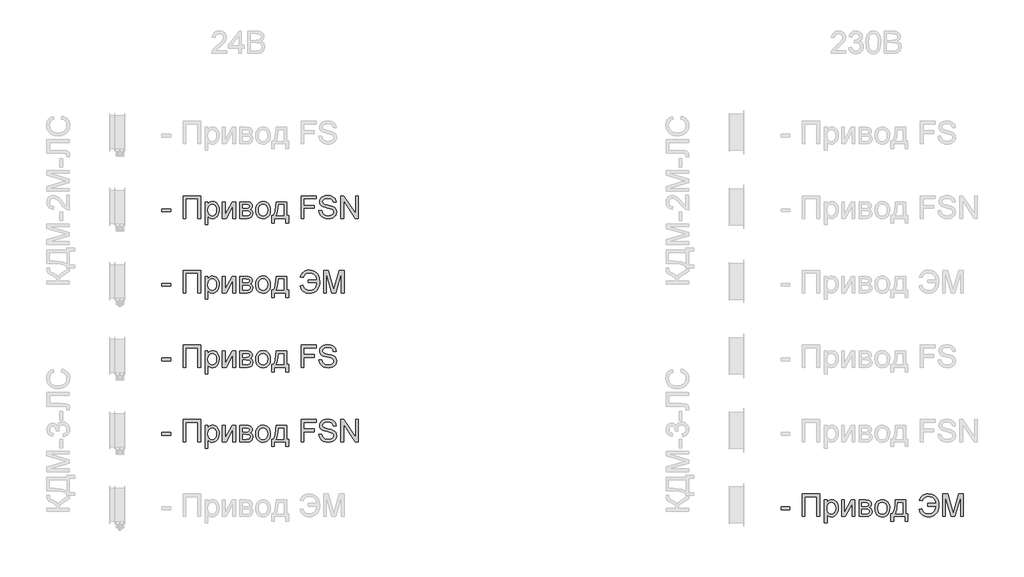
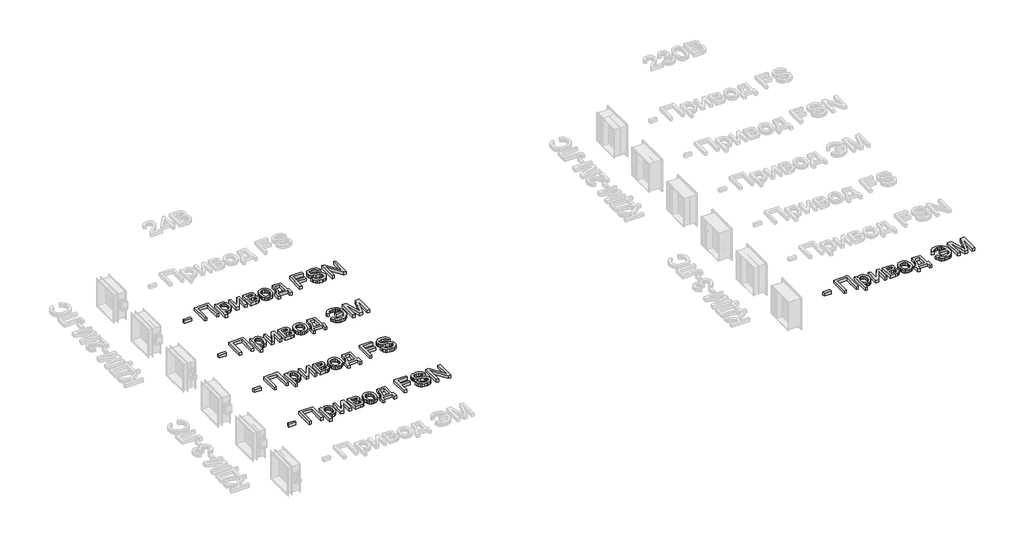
# One storey, part 3 of 23: 5 proxies.
"""IFC4 building model written with IfcOpenShell, lengths in millimetres."""

from ifc_helpers import new_model, si_unit, origin, origin_with_axes, place, context, project, spatial, polyline, outline, extrude, element, save

model = new_model("IFC4")

# Units and contexts
model_context = context("Model", 3, world=origin())
ifc_project = project(units=[si_unit("LENGTHUNIT", "METRE", prefix="MILLI")], contexts=[model_context])

# Site, building, storey
site = spatial("IfcSite", under=ifc_project)
building = spatial("IfcBuilding", under=site)
storey = spatial("IfcBuildingStorey", under=building, Name="Этаж 01", Elevation=0.0)

# Proxies
placement = place(None, origin())
element("IfcBuildingElementProxy", 1, Name="300 мм Arial", ObjectType="300 мм Arial", at=placement, inside=storey, context=model_context, shape_type="SweptSolid", body=[
    extrude(outline(polyline([(9504.7738082, -16034.3206311), (9504.7738082, -15996.6495148), (9622.4960467, -15996.6495148), (9622.4960467, -16034.3206311), (9504.7738082, -16034.3206311)])), origin_with_axes(), (0.0, 0.0, 1.0), 50.0),
    extrude(outline(polyline([(9787.3071805, -15822.4206019), (10022.7516574, -15822.4206019), (10022.7516574, -16123.7895324), (9985.0805411, -16123.7895324), (9985.0805411, -15860.0917182), (9824.9782968, -15860.0917182), (9824.9782968, -16123.7895324), (9787.3071805, -16123.7895324), (9787.3071805, -15822.4206019)])), origin_with_axes(), (0.0, 0.0, 1.0), 50.0),
    extrude(outline(polyline([(10083.9672214, -16208.5495441), (10083.9672214, -15902.4717241), (10121.6383378, -15902.4717241), (10121.6383378, -15939.4070764), (10133.9255964, -15921.1877206), (10147.684383, -15908.173895), (10163.724038, -15900.3655996), (10182.8539017, -15897.7628345), (10208.3297299, -15901.4048663), (10230.6049847, -15912.3309615), (10248.7415671, -15929.8789327), (10261.8013779, -15953.3865922), (10269.6924467, -15981.1432887), (10272.322803, -16011.438371), (10269.3521559, -16043.6556368), (10260.4402145, -16072.469994), (10245.8720875, -16096.4191119), (10225.9328834, -16114.0406595), (10202.7103324, -16124.8839813), (10178.292165, -16128.4984219), (10160.9741201, -16126.0795978), (10145.5138792, -16118.8231254), (10132.2793245, -16107.869439), (10121.6383378, -16094.3589728), (10121.6383378, -16208.5495441), (10083.9672214, -16208.5495441)]), holes=[polyline([(10121.6383378, -16014.8964618), (10125.7126308, -16048.668029), (10137.9355101, -16072.286053), (10155.970925, -16086.1919925), (10177.4828246, -16090.8273056), (10199.3442122, -16086.0264456), (10217.8394795, -16071.6238655), (10230.4486349, -16047.1413187), (10234.6516867, -16012.1005586), (10230.5498024, -15978.5129325), (10218.2441497, -15954.5638146), (10200.236326, -15940.2164168), (10179.027929, -15935.4339508), (10157.7367585, -15940.5199194), (10139.0391561, -15955.7778252), (10125.9885423, -15980.7294215), (10121.6383378, -16014.8964618)])]), origin_with_axes(), (0.0, 0.0, 1.0), 50.0),
    extrude(outline(polyline([(10314.7028088, -15902.4717241), (10352.3739251, -15902.4717241), (10352.3739251, -16071.2559835), (10444.9330351, -15902.4717241), (10493.6406113, -15902.4717241), (10493.6406113, -16123.7895324), (10455.969495, -16123.7895324), (10455.969495, -15956.0353426), (10363.9989962, -16123.7895324), (10314.7028088, -16123.7895324), (10314.7028088, -15902.4717241)])), origin_with_axes(), (0.0, 0.0, 1.0), 50.0),
    extrude(outline(polyline([(10550.1472857, -15902.4717241), (10633.1414638, -15902.4717241), (10659.8221055, -15903.7317199), (10678.6484666, -15907.5117074), (10692.4992238, -15914.6486181), (10704.2530535, -15925.9793836), (10712.2820781, -15940.7406486), (10714.9584196, -15958.1690581), (10713.3397388, -15972.2129533), (10708.4836965, -15984.325468), (10700.3718985, -15994.5617845), (10688.9859507, -16002.9770852), (10702.9286783, -16010.8037746), (10714.296232, -16023.3945359), (10721.856207, -16039.7560876), (10724.3761986, -16058.8951484), (10717.993446, -16087.6083381), (10702.8183137, -16107.8234538), (10678.7956194, -16119.7980127), (10645.8701809, -16123.7895324), (10550.1472857, -16123.7895324), (10550.1472857, -15902.4717241)]), holes=[polyline([(10587.818402, -16086.1184161), (10634.0243806, -16086.1184161), (10659.2059032, -16084.4169618), (10675.0064349, -16079.3125992), (10683.4861149, -16070.0327758), (10686.7050823, -16055.8049397), (10685.0955986, -16046.3779635), (10680.2671474, -16037.6683573), (10672.8543252, -16030.8533433), (10663.4917284, -16027.110144), (10630.3455607, -16024.9028521), (10587.818402, -16024.9028521), (10587.818402, -16086.1184161)]), polyline([(10587.818402, -15987.2317358), (10625.04806, -15987.2317358), (10655.7662065, -15985.3187494), (10670.7022156, -15977.6668039), (10675.6410313, -15971.3392336), (10677.2873033, -15963.8344409), (10674.3994296, -15952.5956459), (10665.7358086, -15945.3667647), (10650.0824297, -15941.4488215), (10626.2252823, -15940.1428404), (10587.818402, -15940.1428404), (10587.818402, -15987.2317358)])]), origin_with_axes(), (0.0, 0.0, 1.0), 50.0),
    extrude(outline(polyline([(10762.047315, -16013.1306282), (10764.0844615, -15984.4680223), (10770.1959011, -15959.7693448), (10780.3816339, -15939.0345959), (10794.6416597, -15922.2637754), (10808.9982546, -15911.5446138), (10824.8447715, -15903.8880698), (10842.1812106, -15899.2941433), (10861.0075717, -15897.7628345), (10881.7906051, -15899.6275364), (10900.5824773, -15905.221642), (10917.3831882, -15914.5451513), (10932.1927377, -15927.5980643), (10944.2799605, -15943.9389227), (10952.9136911, -15963.126268), (10958.0939294, -15985.1601003), (10959.8206756, -16010.0404195), (10956.767255, -16048.0978119), (10947.6069933, -16077.068519), (10932.606605, -16098.7643596), (10912.0328044, -16114.9971527), (10887.5962429, -16125.1231046), (10861.0075717, -16128.4984219), (10839.9210355, -16126.6406178), (10820.9544194, -16121.0672056), (10804.1077233, -16111.7781852), (10789.3809472, -16098.7735567), (10777.4224831, -16082.2740492), (10768.880723, -16062.500392), (10763.755667, -16039.452585), (10762.047315, -16013.1306282)]), holes=[polyline([(10799.7184313, -16013.0570518), (10804.0778329, -16047.1505157), (10817.1560378, -16071.4399245), (10836.8377246, -16085.9804603), (10861.0075717, -16090.8273056), (10885.0670541, -16085.9528692), (10904.7119527, -16071.3295599), (10917.7901576, -16046.7182544), (10922.1495593, -16011.8798294), (10917.7625665, -15978.7796469), (10904.6015881, -15954.821332), (10884.9290984, -15940.2807961), (10861.0075717, -15935.4339508), (10836.8377246, -15940.262402), (10817.1560378, -15954.7477556), (10804.0778329, -15978.981982), (10799.7184313, -16013.0570518)])]), origin_with_axes(), (0.0, 0.0, 1.0), 50.0),
    extrude(outline(polyline([(11035.1629082, -15902.4717241), (11176.4295943, -15902.4717241), (11176.4295943, -16086.1184161), (11204.6829316, -16086.1184161), (11204.6829316, -16185.0050964), (11167.0118152, -16185.0050964), (11167.0118152, -16123.7895324), (11011.6184605, -16123.7895324), (11011.6184605, -16185.0050964), (10973.9473442, -16185.0050964), (10973.9473442, -16086.1184161), (10997.4917919, -16086.1184161), (11014.6075017, -16055.1887373), (11026.5912577, -16014.2710624), (11033.4430598, -15963.3653913), (11035.1629082, -15902.4717241)]), holes=[polyline([(11068.1251349, -15940.1428404), (11065.0349262, -15986.2660455), (11059.2959671, -16025.9697099), (11050.9082576, -16059.2538334), (11039.8717977, -16086.1184161), (11138.758478, -16086.1184161), (11138.758478, -15940.1428404), (11068.1251349, -15940.1428404)])]), origin_with_axes(), (0.0, 0.0, 1.0), 50.0),
    extrude(outline(polyline([(11369.4940654, -16123.7895324), (11369.4940654, -15822.4206019), (11571.9763155, -15822.4206019), (11571.9763155, -15860.0917182), (11407.1651817, -15860.0917182), (11407.1651817, -15949.5606195), (11548.4318678, -15949.5606195), (11548.4318678, -15987.2317358), (11407.1651817, -15987.2317358), (11407.1651817, -16123.7895324), (11369.4940654, -16123.7895324)])), origin_with_axes(), (0.0, 0.0, 1.0), 50.0),
    extrude(outline(polyline([(11609.6474318, -16020.1939625), (11647.3185481, -16020.1939625), (11651.6411616, -16041.0988569), (11659.458654, -16057.901867), (11671.6539421, -16071.2375894), (11689.1099428, -16081.7406203), (11710.4470985, -16088.5556343), (11734.2858518, -16090.8273056), (11755.2735196, -16089.1074573), (11773.6492253, -16083.9479123), (11788.539249, -16075.780932), (11799.0698712, -16065.0387777), (11805.3330621, -16052.7055339), (11807.4207924, -16039.7652847), (11805.857294, -16027.1561293), (11801.1667985, -16016.2576252), (11791.6386549, -16006.9594078), (11775.5622117, -15999.1511124), (11720.7110062, -15984.7669264), (11684.7045559, -15975.2479798), (11661.665946, -15966.1888856), (11642.9131613, -15953.5153509), (11629.6234242, -15938.1562776), (11621.7047642, -15920.4427595), (11619.0652109, -15900.7058905), (11622.3301636, -15878.6421678), (11632.1250217, -15858.0683673), (11648.1922679, -15840.6307607), (11670.2743846, -15827.97562), (11696.7802824, -15820.2776893), (11726.1188715, -15817.7117124), (11757.9038759, -15820.3972509), (11785.7157547, -15828.4538666), (11808.5612266, -15841.7160126), (11825.4470102, -15860.0181418), (11836.1339822, -15882.2198202), (11840.3830192, -15907.1806136), (11802.7119029, -15907.1806136), (11795.7957214, -15884.7030237), (11781.3747472, -15868.4794277), (11758.841975, -15858.6569784), (11727.5903995, -15855.3828287), (11695.60306, -15858.6201902), (11673.658899, -15868.3322749), (11660.9669702, -15882.6244904), (11656.7363272, -15899.6022445), (11659.7345655, -15914.078401), (11668.7292803, -15925.7218662), (11689.9928596, -15936.1329266), (11730.2391499, -15946.7647163), (11771.7730271, -15956.8630771), (11796.8993674, -15965.6738508), (11818.3744789, -15979.340667), (11833.3564731, -15996.2080564), (11842.1580498, -16016.0920783), (11845.0919088, -16038.8087915), (11841.7165914, -16062.0313424), (11831.5906395, -16083.8743359), (11815.1279202, -16102.6731058), (11792.7423008, -16116.7629863), (11765.8225358, -16125.564563), (11735.7573798, -16128.4984219), (11698.8496186, -16125.3346367), (11668.4717629, -16115.8432813), (11644.2743246, -16099.9875673), (11625.907816, -16077.7307066), (11614.1171981, -16050.6178035), (11609.6474318, -16020.1939625)])), origin_with_axes(), (0.0, 0.0, 1.0), 50.0),
    extrude(outline(polyline([(11901.5985832, -16123.7895324), (11901.5985832, -15822.4206019), (11941.9184499, -15822.4206019), (12099.3719438, -16061.1760168), (12099.3719438, -15822.4206019), (12137.0430601, -15822.4206019), (12137.0430601, -16123.7895324), (12096.7231935, -16123.7895324), (11939.2696995, -15884.9605411), (11939.2696995, -16123.7895324), (11901.5985832, -16123.7895324)])), origin_with_axes(), (0.0, 0.0, 1.0), 50.0),
])
element("IfcBuildingElementProxy", 2, Name="300 мм Arial", ObjectType="300 мм Arial", at=placement, inside=storey, context=model_context, shape_type="SweptSolid", body=[
    extrude(outline(polyline([(9504.7738082, -17034.3206311), (9504.7738082, -16996.6495148), (9622.4960467, -16996.6495148), (9622.4960467, -17034.3206311), (9504.7738082, -17034.3206311)])), origin_with_axes(), (0.0, 0.0, 1.0), 50.0),
    extrude(outline(polyline([(9787.3071805, -16822.4206019), (10022.7516574, -16822.4206019), (10022.7516574, -17123.7895324), (9985.0805411, -17123.7895324), (9985.0805411, -16860.0917182), (9824.9782968, -16860.0917182), (9824.9782968, -17123.7895324), (9787.3071805, -17123.7895324), (9787.3071805, -16822.4206019)])), origin_with_axes(), (0.0, 0.0, 1.0), 50.0),
    extrude(outline(polyline([(10083.9672214, -17208.5495441), (10083.9672214, -16902.4717241), (10121.6383378, -16902.4717241), (10121.6383378, -16939.4070764), (10133.9255964, -16921.1877206), (10147.684383, -16908.173895), (10163.724038, -16900.3655996), (10182.8539017, -16897.7628345), (10208.3297299, -16901.4048663), (10230.6049847, -16912.3309615), (10248.7415671, -16929.8789327), (10261.8013779, -16953.3865922), (10269.6924467, -16981.1432887), (10272.322803, -17011.438371), (10269.3521559, -17043.6556368), (10260.4402145, -17072.469994), (10245.8720875, -17096.4191119), (10225.9328834, -17114.0406595), (10202.7103324, -17124.8839813), (10178.292165, -17128.4984219), (10160.9741201, -17126.0795978), (10145.5138792, -17118.8231254), (10132.2793245, -17107.869439), (10121.6383378, -17094.3589728), (10121.6383378, -17208.5495441), (10083.9672214, -17208.5495441)]), holes=[polyline([(10121.6383378, -17014.8964618), (10125.7126308, -17048.668029), (10137.9355101, -17072.286053), (10155.970925, -17086.1919925), (10177.4828246, -17090.8273056), (10199.3442122, -17086.0264456), (10217.8394795, -17071.6238655), (10230.4486349, -17047.1413187), (10234.6516867, -17012.1005586), (10230.5498024, -16978.5129325), (10218.2441497, -16954.5638146), (10200.236326, -16940.2164168), (10179.027929, -16935.4339508), (10157.7367585, -16940.5199194), (10139.0391561, -16955.7778252), (10125.9885423, -16980.7294215), (10121.6383378, -17014.8964618)])]), origin_with_axes(), (0.0, 0.0, 1.0), 50.0),
    extrude(outline(polyline([(10314.7028088, -16902.4717241), (10352.3739251, -16902.4717241), (10352.3739251, -17071.2559835), (10444.9330351, -16902.4717241), (10493.6406113, -16902.4717241), (10493.6406113, -17123.7895324), (10455.969495, -17123.7895324), (10455.969495, -16956.0353426), (10363.9989962, -17123.7895324), (10314.7028088, -17123.7895324), (10314.7028088, -16902.4717241)])), origin_with_axes(), (0.0, 0.0, 1.0), 50.0),
    extrude(outline(polyline([(10550.1472857, -16902.4717241), (10633.1414638, -16902.4717241), (10659.8221055, -16903.7317199), (10678.6484666, -16907.5117074), (10692.4992238, -16914.6486181), (10704.2530535, -16925.9793836), (10712.2820781, -16940.7406486), (10714.9584196, -16958.1690581), (10713.3397388, -16972.2129533), (10708.4836965, -16984.325468), (10700.3718985, -16994.5617845), (10688.9859507, -17002.9770852), (10702.9286783, -17010.8037746), (10714.296232, -17023.3945359), (10721.856207, -17039.7560876), (10724.3761986, -17058.8951484), (10717.993446, -17087.6083381), (10702.8183137, -17107.8234538), (10678.7956194, -17119.7980127), (10645.8701809, -17123.7895324), (10550.1472857, -17123.7895324), (10550.1472857, -16902.4717241)]), holes=[polyline([(10587.818402, -17086.1184161), (10634.0243806, -17086.1184161), (10659.2059032, -17084.4169618), (10675.0064349, -17079.3125992), (10683.4861149, -17070.0327758), (10686.7050823, -17055.8049397), (10685.0955986, -17046.3779635), (10680.2671474, -17037.6683573), (10672.8543252, -17030.8533433), (10663.4917284, -17027.110144), (10630.3455607, -17024.9028521), (10587.818402, -17024.9028521), (10587.818402, -17086.1184161)]), polyline([(10587.818402, -16987.2317358), (10625.04806, -16987.2317358), (10655.7662065, -16985.3187494), (10670.7022156, -16977.6668039), (10675.6410313, -16971.3392336), (10677.2873033, -16963.8344409), (10674.3994296, -16952.5956459), (10665.7358086, -16945.3667647), (10650.0824297, -16941.4488215), (10626.2252823, -16940.1428404), (10587.818402, -16940.1428404), (10587.818402, -16987.2317358)])]), origin_with_axes(), (0.0, 0.0, 1.0), 50.0),
    extrude(outline(polyline([(10762.047315, -17013.1306282), (10764.0844615, -16984.4680223), (10770.1959011, -16959.7693448), (10780.3816339, -16939.0345959), (10794.6416597, -16922.2637754), (10808.9982546, -16911.5446138), (10824.8447715, -16903.8880698), (10842.1812106, -16899.2941433), (10861.0075717, -16897.7628345), (10881.7906051, -16899.6275364), (10900.5824773, -16905.221642), (10917.3831882, -16914.5451513), (10932.1927377, -16927.5980643), (10944.2799605, -16943.9389227), (10952.9136911, -16963.126268), (10958.0939294, -16985.1601003), (10959.8206756, -17010.0404195), (10956.767255, -17048.0978119), (10947.6069933, -17077.068519), (10932.606605, -17098.7643596), (10912.0328044, -17114.9971527), (10887.5962429, -17125.1231046), (10861.0075717, -17128.4984219), (10839.9210355, -17126.6406178), (10820.9544194, -17121.0672056), (10804.1077233, -17111.7781852), (10789.3809472, -17098.7735567), (10777.4224831, -17082.2740492), (10768.880723, -17062.500392), (10763.755667, -17039.452585), (10762.047315, -17013.1306282)]), holes=[polyline([(10799.7184313, -17013.0570518), (10804.0778329, -17047.1505157), (10817.1560378, -17071.4399245), (10836.8377246, -17085.9804603), (10861.0075717, -17090.8273056), (10885.0670541, -17085.9528692), (10904.7119527, -17071.3295599), (10917.7901576, -17046.7182544), (10922.1495593, -17011.8798294), (10917.7625665, -16978.7796469), (10904.6015881, -16954.821332), (10884.9290984, -16940.2807961), (10861.0075717, -16935.4339508), (10836.8377246, -16940.262402), (10817.1560378, -16954.7477556), (10804.0778329, -16978.981982), (10799.7184313, -17013.0570518)])]), origin_with_axes(), (0.0, 0.0, 1.0), 50.0),
    extrude(outline(polyline([(11035.1629082, -16902.4717241), (11176.4295943, -16902.4717241), (11176.4295943, -17086.1184161), (11204.6829316, -17086.1184161), (11204.6829316, -17185.0050964), (11167.0118152, -17185.0050964), (11167.0118152, -17123.7895324), (11011.6184605, -17123.7895324), (11011.6184605, -17185.0050964), (10973.9473442, -17185.0050964), (10973.9473442, -17086.1184161), (10997.4917919, -17086.1184161), (11014.6075017, -17055.1887373), (11026.5912577, -17014.2710624), (11033.4430598, -16963.3653913), (11035.1629082, -16902.4717241)]), holes=[polyline([(11068.1251349, -16940.1428404), (11065.0349262, -16986.2660455), (11059.2959671, -17025.9697099), (11050.9082576, -17059.2538334), (11039.8717977, -17086.1184161), (11138.758478, -17086.1184161), (11138.758478, -16940.1428404), (11068.1251349, -16940.1428404)])]), origin_with_axes(), (0.0, 0.0, 1.0), 50.0),
    extrude(outline(polyline([(11468.3807457, -16949.5606195), (11581.3940946, -16949.5606195), (11578.6947605, -16929.0121108), (11573.0983556, -16910.7030837), (11564.6048801, -16894.6335383), (11553.2143338, -16880.8034746), (11539.1520445, -16869.681942), (11522.64334, -16861.7379902), (11503.6882202, -16856.9716191), (11482.2866851, -16855.3828287), (11451.8674426, -16859.2088014), (11427.6378147, -16870.6867197), (11409.5978014, -16889.8165834), (11397.7474026, -16916.5983927), (11360.0762863, -16907.1806136), (11366.8637091, -16887.2873947), (11376.1895177, -16869.6934383), (11388.053712, -16854.3987444), (11402.4562922, -16841.4033129), (11419.0799598, -16831.0382377), (11437.6074168, -16823.6346125), (11458.0386631, -16819.1924374), (11480.3736987, -16817.7117124), (11521.4477235, -16823.1471689), (11556.3781189, -16839.4535383), (11584.1256184, -16864.2119966), (11603.6509553, -16895.0037196), (11615.211647, -16930.6054997), (11619.0652109, -16969.7941292), (11617.8925871, -17002.0136942), (11612.0938471, -17031.5707132), (11601.6689911, -17058.4651863), (11586.6180189, -17082.6971135), (11566.9777189, -17102.7351859), (11542.7848792, -17117.0480948), (11514.0394998, -17125.6358401), (11480.7415807, -17128.4984219), (11457.0545788, -17126.9533175), (11435.6576422, -17122.3180044), (11416.5507711, -17114.5924825), (11399.7339654, -17103.7767518), (11385.2072251, -17089.8708124), (11372.9705502, -17072.8746642), (11363.0239408, -17052.7883073), (11355.3673968, -17029.6117416), (11393.0385131, -17020.1939625), (11405.7672301, -17051.0960501), (11425.3385523, -17073.1689698), (11451.7524795, -17086.4127217), (11485.0090119, -17090.8273056), (11504.7182898, -17089.0936617), (11522.5697636, -17083.89273), (11538.5634333, -17075.2245105), (11552.699299, -17063.0890032), (11564.3979464, -17047.9460605), (11573.0799615, -17030.2555351), (11578.7453442, -17010.0174268), (11581.3940946, -16987.2317358), (11468.3807457, -16987.2317358), (11468.3807457, -16949.5606195)])), origin_with_axes(), (0.0, 0.0, 1.0), 50.0),
    extrude(outline(polyline([(11670.8629958, -17123.7895324), (11670.8629958, -16822.4206019), (11735.6838034, -16822.4206019), (11797.3408258, -17034.8356659), (11809.7752372, -17079.2022346), (11823.2397182, -17031.156846), (11883.866671, -16822.4206019), (11948.6874786, -16822.4206019), (11948.6874786, -17123.7895324), (11911.0163623, -17123.7895324), (11911.0163623, -16860.0917182), (11835.3062477, -17123.7895324), (11784.2442268, -17123.7895324), (11708.5341121, -16860.0917182), (11708.5341121, -17123.7895324), (11670.8629958, -17123.7895324)])), origin_with_axes(), (0.0, 0.0, 1.0), 50.0),
])
element("IfcBuildingElementProxy", 3, Name="300 мм Arial", ObjectType="300 мм Arial", at=placement, inside=storey, context=model_context, shape_type="SweptSolid", body=[
    extrude(outline(polyline([(9504.7738082, -18034.3206311), (9504.7738082, -17996.6495148), (9622.4960467, -17996.6495148), (9622.4960467, -18034.3206311), (9504.7738082, -18034.3206311)])), origin_with_axes(), (0.0, 0.0, 1.0), 50.0),
    extrude(outline(polyline([(9787.3071805, -17822.4206019), (10022.7516574, -17822.4206019), (10022.7516574, -18123.7895324), (9985.0805411, -18123.7895324), (9985.0805411, -17860.0917182), (9824.9782968, -17860.0917182), (9824.9782968, -18123.7895324), (9787.3071805, -18123.7895324), (9787.3071805, -17822.4206019)])), origin_with_axes(), (0.0, 0.0, 1.0), 50.0),
    extrude(outline(polyline([(10083.9672214, -18208.5495441), (10083.9672214, -17902.4717241), (10121.6383378, -17902.4717241), (10121.6383378, -17939.4070764), (10133.9255964, -17921.1877206), (10147.684383, -17908.173895), (10163.724038, -17900.3655996), (10182.8539017, -17897.7628345), (10208.3297299, -17901.4048663), (10230.6049847, -17912.3309615), (10248.7415671, -17929.8789327), (10261.8013779, -17953.3865922), (10269.6924467, -17981.1432887), (10272.322803, -18011.438371), (10269.3521559, -18043.6556368), (10260.4402145, -18072.469994), (10245.8720875, -18096.4191119), (10225.9328834, -18114.0406595), (10202.7103324, -18124.8839813), (10178.292165, -18128.4984219), (10160.9741201, -18126.0795978), (10145.5138792, -18118.8231254), (10132.2793245, -18107.869439), (10121.6383378, -18094.3589728), (10121.6383378, -18208.5495441), (10083.9672214, -18208.5495441)]), holes=[polyline([(10121.6383378, -18014.8964618), (10125.7126308, -18048.668029), (10137.9355101, -18072.286053), (10155.970925, -18086.1919925), (10177.4828246, -18090.8273056), (10199.3442122, -18086.0264456), (10217.8394795, -18071.6238655), (10230.4486349, -18047.1413187), (10234.6516867, -18012.1005586), (10230.5498024, -17978.5129325), (10218.2441497, -17954.5638146), (10200.236326, -17940.2164168), (10179.027929, -17935.4339508), (10157.7367585, -17940.5199194), (10139.0391561, -17955.7778252), (10125.9885423, -17980.7294215), (10121.6383378, -18014.8964618)])]), origin_with_axes(), (0.0, 0.0, 1.0), 50.0),
    extrude(outline(polyline([(10314.7028088, -17902.4717241), (10352.3739251, -17902.4717241), (10352.3739251, -18071.2559835), (10444.9330351, -17902.4717241), (10493.6406113, -17902.4717241), (10493.6406113, -18123.7895324), (10455.969495, -18123.7895324), (10455.969495, -17956.0353426), (10363.9989962, -18123.7895324), (10314.7028088, -18123.7895324), (10314.7028088, -17902.4717241)])), origin_with_axes(), (0.0, 0.0, 1.0), 50.0),
    extrude(outline(polyline([(10550.1472857, -17902.4717241), (10633.1414638, -17902.4717241), (10659.8221055, -17903.7317199), (10678.6484666, -17907.5117074), (10692.4992238, -17914.6486181), (10704.2530535, -17925.9793836), (10712.2820781, -17940.7406486), (10714.9584196, -17958.1690581), (10713.3397388, -17972.2129533), (10708.4836965, -17984.325468), (10700.3718985, -17994.5617845), (10688.9859507, -18002.9770852), (10702.9286783, -18010.8037746), (10714.296232, -18023.3945359), (10721.856207, -18039.7560876), (10724.3761986, -18058.8951484), (10717.993446, -18087.6083381), (10702.8183137, -18107.8234538), (10678.7956194, -18119.7980127), (10645.8701809, -18123.7895324), (10550.1472857, -18123.7895324), (10550.1472857, -17902.4717241)]), holes=[polyline([(10587.818402, -18086.1184161), (10634.0243806, -18086.1184161), (10659.2059032, -18084.4169618), (10675.0064349, -18079.3125992), (10683.4861149, -18070.0327758), (10686.7050823, -18055.8049397), (10685.0955986, -18046.3779635), (10680.2671474, -18037.6683573), (10672.8543252, -18030.8533433), (10663.4917284, -18027.110144), (10630.3455607, -18024.9028521), (10587.818402, -18024.9028521), (10587.818402, -18086.1184161)]), polyline([(10587.818402, -17987.2317358), (10625.04806, -17987.2317358), (10655.7662065, -17985.3187494), (10670.7022156, -17977.6668039), (10675.6410313, -17971.3392336), (10677.2873033, -17963.8344409), (10674.3994296, -17952.5956459), (10665.7358086, -17945.3667647), (10650.0824297, -17941.4488215), (10626.2252823, -17940.1428404), (10587.818402, -17940.1428404), (10587.818402, -17987.2317358)])]), origin_with_axes(), (0.0, 0.0, 1.0), 50.0),
    extrude(outline(polyline([(10762.047315, -18013.1306282), (10764.0844615, -17984.4680223), (10770.1959011, -17959.7693448), (10780.3816339, -17939.0345959), (10794.6416597, -17922.2637754), (10808.9982546, -17911.5446138), (10824.8447715, -17903.8880698), (10842.1812106, -17899.2941433), (10861.0075717, -17897.7628345), (10881.7906051, -17899.6275364), (10900.5824773, -17905.221642), (10917.3831882, -17914.5451513), (10932.1927377, -17927.5980643), (10944.2799605, -17943.9389227), (10952.9136911, -17963.126268), (10958.0939294, -17985.1601003), (10959.8206756, -18010.0404195), (10956.767255, -18048.0978119), (10947.6069933, -18077.068519), (10932.606605, -18098.7643596), (10912.0328044, -18114.9971527), (10887.5962429, -18125.1231046), (10861.0075717, -18128.4984219), (10839.9210355, -18126.6406178), (10820.9544194, -18121.0672056), (10804.1077233, -18111.7781852), (10789.3809472, -18098.7735567), (10777.4224831, -18082.2740492), (10768.880723, -18062.500392), (10763.755667, -18039.452585), (10762.047315, -18013.1306282)]), holes=[polyline([(10799.7184313, -18013.0570518), (10804.0778329, -18047.1505157), (10817.1560378, -18071.4399245), (10836.8377246, -18085.9804603), (10861.0075717, -18090.8273056), (10885.0670541, -18085.9528692), (10904.7119527, -18071.3295599), (10917.7901576, -18046.7182544), (10922.1495593, -18011.8798294), (10917.7625665, -17978.7796469), (10904.6015881, -17954.821332), (10884.9290984, -17940.2807961), (10861.0075717, -17935.4339508), (10836.8377246, -17940.262402), (10817.1560378, -17954.7477556), (10804.0778329, -17978.981982), (10799.7184313, -18013.0570518)])]), origin_with_axes(), (0.0, 0.0, 1.0), 50.0),
    extrude(outline(polyline([(11035.1629082, -17902.4717241), (11176.4295943, -17902.4717241), (11176.4295943, -18086.1184161), (11204.6829316, -18086.1184161), (11204.6829316, -18185.0050964), (11167.0118152, -18185.0050964), (11167.0118152, -18123.7895324), (11011.6184605, -18123.7895324), (11011.6184605, -18185.0050964), (10973.9473442, -18185.0050964), (10973.9473442, -18086.1184161), (10997.4917919, -18086.1184161), (11014.6075017, -18055.1887373), (11026.5912577, -18014.2710624), (11033.4430598, -17963.3653913), (11035.1629082, -17902.4717241)]), holes=[polyline([(11068.1251349, -17940.1428404), (11065.0349262, -17986.2660455), (11059.2959671, -18025.9697099), (11050.9082576, -18059.2538334), (11039.8717977, -18086.1184161), (11138.758478, -18086.1184161), (11138.758478, -17940.1428404), (11068.1251349, -17940.1428404)])]), origin_with_axes(), (0.0, 0.0, 1.0), 50.0),
    extrude(outline(polyline([(11369.4940654, -18123.7895324), (11369.4940654, -17822.4206019), (11571.9763155, -17822.4206019), (11571.9763155, -17860.0917182), (11407.1651817, -17860.0917182), (11407.1651817, -17949.5606195), (11548.4318678, -17949.5606195), (11548.4318678, -17987.2317358), (11407.1651817, -17987.2317358), (11407.1651817, -18123.7895324), (11369.4940654, -18123.7895324)])), origin_with_axes(), (0.0, 0.0, 1.0), 50.0),
    extrude(outline(polyline([(11609.6474318, -18020.1939625), (11647.3185481, -18020.1939625), (11651.6411616, -18041.0988569), (11659.458654, -18057.901867), (11671.6539421, -18071.2375894), (11689.1099428, -18081.7406203), (11710.4470985, -18088.5556343), (11734.2858518, -18090.8273056), (11755.2735196, -18089.1074573), (11773.6492253, -18083.9479123), (11788.539249, -18075.780932), (11799.0698712, -18065.0387777), (11805.3330621, -18052.7055339), (11807.4207924, -18039.7652847), (11805.857294, -18027.1561293), (11801.1667985, -18016.2576252), (11791.6386549, -18006.9594078), (11775.5622117, -17999.1511124), (11720.7110062, -17984.7669264), (11684.7045559, -17975.2479798), (11661.665946, -17966.1888856), (11642.9131613, -17953.5153509), (11629.6234242, -17938.1562776), (11621.7047642, -17920.4427595), (11619.0652109, -17900.7058905), (11622.3301636, -17878.6421678), (11632.1250217, -17858.0683673), (11648.1922679, -17840.6307607), (11670.2743846, -17827.97562), (11696.7802824, -17820.2776893), (11726.1188715, -17817.7117124), (11757.9038759, -17820.3972509), (11785.7157547, -17828.4538666), (11808.5612266, -17841.7160126), (11825.4470102, -17860.0181418), (11836.1339822, -17882.2198202), (11840.3830192, -17907.1806136), (11802.7119029, -17907.1806136), (11795.7957214, -17884.7030237), (11781.3747472, -17868.4794277), (11758.841975, -17858.6569784), (11727.5903995, -17855.3828287), (11695.60306, -17858.6201902), (11673.658899, -17868.3322749), (11660.9669702, -17882.6244904), (11656.7363272, -17899.6022445), (11659.7345655, -17914.078401), (11668.7292803, -17925.7218662), (11689.9928596, -17936.1329266), (11730.2391499, -17946.7647163), (11771.7730271, -17956.8630771), (11796.8993674, -17965.6738508), (11818.3744789, -17979.340667), (11833.3564731, -17996.2080564), (11842.1580498, -18016.0920783), (11845.0919088, -18038.8087915), (11841.7165914, -18062.0313424), (11831.5906395, -18083.8743359), (11815.1279202, -18102.6731058), (11792.7423008, -18116.7629863), (11765.8225358, -18125.564563), (11735.7573798, -18128.4984219), (11698.8496186, -18125.3346367), (11668.4717629, -18115.8432813), (11644.2743246, -18099.9875673), (11625.907816, -18077.7307066), (11614.1171981, -18050.6178035), (11609.6474318, -18020.1939625)])), origin_with_axes(), (0.0, 0.0, 1.0), 50.0),
])
element("IfcBuildingElementProxy", 4, Name="300 мм Arial", ObjectType="300 мм Arial", at=placement, inside=storey, context=model_context, shape_type="SweptSolid", body=[
    extrude(outline(polyline([(9504.7738082, -19034.3206311), (9504.7738082, -18996.6495148), (9622.4960467, -18996.6495148), (9622.4960467, -19034.3206311), (9504.7738082, -19034.3206311)])), origin_with_axes(), (0.0, 0.0, 1.0), 50.0),
    extrude(outline(polyline([(9787.3071805, -18822.4206019), (10022.7516574, -18822.4206019), (10022.7516574, -19123.7895324), (9985.0805411, -19123.7895324), (9985.0805411, -18860.0917182), (9824.9782968, -18860.0917182), (9824.9782968, -19123.7895324), (9787.3071805, -19123.7895324), (9787.3071805, -18822.4206019)])), origin_with_axes(), (0.0, 0.0, 1.0), 50.0),
    extrude(outline(polyline([(10083.9672214, -19208.5495441), (10083.9672214, -18902.4717241), (10121.6383378, -18902.4717241), (10121.6383378, -18939.4070764), (10133.9255964, -18921.1877206), (10147.684383, -18908.173895), (10163.724038, -18900.3655996), (10182.8539017, -18897.7628345), (10208.3297299, -18901.4048663), (10230.6049847, -18912.3309615), (10248.7415671, -18929.8789327), (10261.8013779, -18953.3865922), (10269.6924467, -18981.1432887), (10272.322803, -19011.438371), (10269.3521559, -19043.6556368), (10260.4402145, -19072.469994), (10245.8720875, -19096.4191119), (10225.9328834, -19114.0406595), (10202.7103324, -19124.8839813), (10178.292165, -19128.4984219), (10160.9741201, -19126.0795978), (10145.5138792, -19118.8231254), (10132.2793245, -19107.869439), (10121.6383378, -19094.3589728), (10121.6383378, -19208.5495441), (10083.9672214, -19208.5495441)]), holes=[polyline([(10121.6383378, -19014.8964618), (10125.7126308, -19048.668029), (10137.9355101, -19072.286053), (10155.970925, -19086.1919925), (10177.4828246, -19090.8273056), (10199.3442122, -19086.0264456), (10217.8394795, -19071.6238655), (10230.4486349, -19047.1413187), (10234.6516867, -19012.1005586), (10230.5498024, -18978.5129325), (10218.2441497, -18954.5638146), (10200.236326, -18940.2164168), (10179.027929, -18935.4339508), (10157.7367585, -18940.5199194), (10139.0391561, -18955.7778252), (10125.9885423, -18980.7294215), (10121.6383378, -19014.8964618)])]), origin_with_axes(), (0.0, 0.0, 1.0), 50.0),
    extrude(outline(polyline([(10314.7028088, -18902.4717241), (10352.3739251, -18902.4717241), (10352.3739251, -19071.2559835), (10444.9330351, -18902.4717241), (10493.6406113, -18902.4717241), (10493.6406113, -19123.7895324), (10455.969495, -19123.7895324), (10455.969495, -18956.0353426), (10363.9989962, -19123.7895324), (10314.7028088, -19123.7895324), (10314.7028088, -18902.4717241)])), origin_with_axes(), (0.0, 0.0, 1.0), 50.0),
    extrude(outline(polyline([(10550.1472857, -18902.4717241), (10633.1414638, -18902.4717241), (10659.8221055, -18903.7317199), (10678.6484666, -18907.5117074), (10692.4992238, -18914.6486181), (10704.2530535, -18925.9793836), (10712.2820781, -18940.7406486), (10714.9584196, -18958.1690581), (10713.3397388, -18972.2129533), (10708.4836965, -18984.325468), (10700.3718985, -18994.5617845), (10688.9859507, -19002.9770852), (10702.9286783, -19010.8037746), (10714.296232, -19023.3945359), (10721.856207, -19039.7560876), (10724.3761986, -19058.8951484), (10717.993446, -19087.6083381), (10702.8183137, -19107.8234538), (10678.7956194, -19119.7980127), (10645.8701809, -19123.7895324), (10550.1472857, -19123.7895324), (10550.1472857, -18902.4717241)]), holes=[polyline([(10587.818402, -19086.1184161), (10634.0243806, -19086.1184161), (10659.2059032, -19084.4169618), (10675.0064349, -19079.3125992), (10683.4861149, -19070.0327758), (10686.7050823, -19055.8049397), (10685.0955986, -19046.3779635), (10680.2671474, -19037.6683573), (10672.8543252, -19030.8533433), (10663.4917284, -19027.110144), (10630.3455607, -19024.9028521), (10587.818402, -19024.9028521), (10587.818402, -19086.1184161)]), polyline([(10587.818402, -18987.2317358), (10625.04806, -18987.2317358), (10655.7662065, -18985.3187494), (10670.7022156, -18977.6668039), (10675.6410313, -18971.3392336), (10677.2873033, -18963.8344409), (10674.3994296, -18952.5956459), (10665.7358086, -18945.3667647), (10650.0824297, -18941.4488215), (10626.2252823, -18940.1428404), (10587.818402, -18940.1428404), (10587.818402, -18987.2317358)])]), origin_with_axes(), (0.0, 0.0, 1.0), 50.0),
    extrude(outline(polyline([(10762.047315, -19013.1306282), (10764.0844615, -18984.4680223), (10770.1959011, -18959.7693448), (10780.3816339, -18939.0345959), (10794.6416597, -18922.2637754), (10808.9982546, -18911.5446138), (10824.8447715, -18903.8880698), (10842.1812106, -18899.2941433), (10861.0075717, -18897.7628345), (10881.7906051, -18899.6275364), (10900.5824773, -18905.221642), (10917.3831882, -18914.5451513), (10932.1927377, -18927.5980643), (10944.2799605, -18943.9389227), (10952.9136911, -18963.126268), (10958.0939294, -18985.1601003), (10959.8206756, -19010.0404195), (10956.767255, -19048.0978119), (10947.6069933, -19077.068519), (10932.606605, -19098.7643596), (10912.0328044, -19114.9971527), (10887.5962429, -19125.1231046), (10861.0075717, -19128.4984219), (10839.9210355, -19126.6406178), (10820.9544194, -19121.0672056), (10804.1077233, -19111.7781852), (10789.3809472, -19098.7735567), (10777.4224831, -19082.2740492), (10768.880723, -19062.500392), (10763.755667, -19039.452585), (10762.047315, -19013.1306282)]), holes=[polyline([(10799.7184313, -19013.0570518), (10804.0778329, -19047.1505157), (10817.1560378, -19071.4399245), (10836.8377246, -19085.9804603), (10861.0075717, -19090.8273056), (10885.0670541, -19085.9528692), (10904.7119527, -19071.3295599), (10917.7901576, -19046.7182544), (10922.1495593, -19011.8798294), (10917.7625665, -18978.7796469), (10904.6015881, -18954.821332), (10884.9290984, -18940.2807961), (10861.0075717, -18935.4339508), (10836.8377246, -18940.262402), (10817.1560378, -18954.7477556), (10804.0778329, -18978.981982), (10799.7184313, -19013.0570518)])]), origin_with_axes(), (0.0, 0.0, 1.0), 50.0),
    extrude(outline(polyline([(11035.1629082, -18902.4717241), (11176.4295943, -18902.4717241), (11176.4295943, -19086.1184161), (11204.6829316, -19086.1184161), (11204.6829316, -19185.0050964), (11167.0118152, -19185.0050964), (11167.0118152, -19123.7895324), (11011.6184605, -19123.7895324), (11011.6184605, -19185.0050964), (10973.9473442, -19185.0050964), (10973.9473442, -19086.1184161), (10997.4917919, -19086.1184161), (11014.6075017, -19055.1887373), (11026.5912577, -19014.2710624), (11033.4430598, -18963.3653913), (11035.1629082, -18902.4717241)]), holes=[polyline([(11068.1251349, -18940.1428404), (11065.0349262, -18986.2660455), (11059.2959671, -19025.9697099), (11050.9082576, -19059.2538334), (11039.8717977, -19086.1184161), (11138.758478, -19086.1184161), (11138.758478, -18940.1428404), (11068.1251349, -18940.1428404)])]), origin_with_axes(), (0.0, 0.0, 1.0), 50.0),
    extrude(outline(polyline([(11369.4940654, -19123.7895324), (11369.4940654, -18822.4206019), (11571.9763155, -18822.4206019), (11571.9763155, -18860.0917182), (11407.1651817, -18860.0917182), (11407.1651817, -18949.5606195), (11548.4318678, -18949.5606195), (11548.4318678, -18987.2317358), (11407.1651817, -18987.2317358), (11407.1651817, -19123.7895324), (11369.4940654, -19123.7895324)])), origin_with_axes(), (0.0, 0.0, 1.0), 50.0),
    extrude(outline(polyline([(11609.6474318, -19020.1939625), (11647.3185481, -19020.1939625), (11651.6411616, -19041.0988569), (11659.458654, -19057.901867), (11671.6539421, -19071.2375894), (11689.1099428, -19081.7406203), (11710.4470985, -19088.5556343), (11734.2858518, -19090.8273056), (11755.2735196, -19089.1074573), (11773.6492253, -19083.9479123), (11788.539249, -19075.780932), (11799.0698712, -19065.0387777), (11805.3330621, -19052.7055339), (11807.4207924, -19039.7652847), (11805.857294, -19027.1561293), (11801.1667985, -19016.2576252), (11791.6386549, -19006.9594078), (11775.5622117, -18999.1511124), (11720.7110062, -18984.7669264), (11684.7045559, -18975.2479798), (11661.665946, -18966.1888856), (11642.9131613, -18953.5153509), (11629.6234242, -18938.1562776), (11621.7047642, -18920.4427595), (11619.0652109, -18900.7058905), (11622.3301636, -18878.6421678), (11632.1250217, -18858.0683673), (11648.1922679, -18840.6307607), (11670.2743846, -18827.97562), (11696.7802824, -18820.2776893), (11726.1188715, -18817.7117124), (11757.9038759, -18820.3972509), (11785.7157547, -18828.4538666), (11808.5612266, -18841.7160126), (11825.4470102, -18860.0181418), (11836.1339822, -18882.2198202), (11840.3830192, -18907.1806136), (11802.7119029, -18907.1806136), (11795.7957214, -18884.7030237), (11781.3747472, -18868.4794277), (11758.841975, -18858.6569784), (11727.5903995, -18855.3828287), (11695.60306, -18858.6201902), (11673.658899, -18868.3322749), (11660.9669702, -18882.6244904), (11656.7363272, -18899.6022445), (11659.7345655, -18914.078401), (11668.7292803, -18925.7218662), (11689.9928596, -18936.1329266), (11730.2391499, -18946.7647163), (11771.7730271, -18956.8630771), (11796.8993674, -18965.6738508), (11818.3744789, -18979.340667), (11833.3564731, -18996.2080564), (11842.1580498, -19016.0920783), (11845.0919088, -19038.8087915), (11841.7165914, -19062.0313424), (11831.5906395, -19083.8743359), (11815.1279202, -19102.6731058), (11792.7423008, -19116.7629863), (11765.8225358, -19125.564563), (11735.7573798, -19128.4984219), (11698.8496186, -19125.3346367), (11668.4717629, -19115.8432813), (11644.2743246, -19099.9875673), (11625.907816, -19077.7307066), (11614.1171981, -19050.6178035), (11609.6474318, -19020.1939625)])), origin_with_axes(), (0.0, 0.0, 1.0), 50.0),
    extrude(outline(polyline([(11901.5985832, -19123.7895324), (11901.5985832, -18822.4206019), (11941.9184499, -18822.4206019), (12099.3719438, -19061.1760168), (12099.3719438, -18822.4206019), (12137.0430601, -18822.4206019), (12137.0430601, -19123.7895324), (12096.7231935, -19123.7895324), (11939.2696995, -18884.9605411), (11939.2696995, -19123.7895324), (11901.5985832, -19123.7895324)])), origin_with_axes(), (0.0, 0.0, 1.0), 50.0),
])
element("IfcBuildingElementProxy", 5, Name="300 мм Arial", ObjectType="300 мм Arial", at=placement, inside=storey, context=model_context, shape_type="SweptSolid", body=[
    extrude(outline(polyline([(17804.7738082, -20034.3206311), (17804.7738082, -19996.6495148), (17922.4960467, -19996.6495148), (17922.4960467, -20034.3206311), (17804.7738082, -20034.3206311)])), origin_with_axes(), (0.0, 0.0, 1.0), 50.0),
    extrude(outline(polyline([(18087.3071805, -19822.4206019), (18322.7516574, -19822.4206019), (18322.7516574, -20123.7895324), (18285.0805411, -20123.7895324), (18285.0805411, -19860.0917182), (18124.9782968, -19860.0917182), (18124.9782968, -20123.7895324), (18087.3071805, -20123.7895324), (18087.3071805, -19822.4206019)])), origin_with_axes(), (0.0, 0.0, 1.0), 50.0),
    extrude(outline(polyline([(18383.9672214, -20208.5495441), (18383.9672214, -19902.4717241), (18421.6383378, -19902.4717241), (18421.6383378, -19939.4070764), (18433.9255964, -19921.1877206), (18447.684383, -19908.173895), (18463.724038, -19900.3655996), (18482.8539017, -19897.7628345), (18508.3297299, -19901.4048663), (18530.6049847, -19912.3309615), (18548.7415671, -19929.8789327), (18561.8013779, -19953.3865922), (18569.6924467, -19981.1432887), (18572.322803, -20011.438371), (18569.3521559, -20043.6556368), (18560.4402145, -20072.469994), (18545.8720875, -20096.4191119), (18525.9328834, -20114.0406595), (18502.7103324, -20124.8839813), (18478.292165, -20128.4984219), (18460.9741201, -20126.0795978), (18445.5138792, -20118.8231254), (18432.2793245, -20107.869439), (18421.6383378, -20094.3589728), (18421.6383378, -20208.5495441), (18383.9672214, -20208.5495441)]), holes=[polyline([(18421.6383378, -20014.8964618), (18425.7126308, -20048.668029), (18437.9355101, -20072.286053), (18455.970925, -20086.1919925), (18477.4828246, -20090.8273056), (18499.3442122, -20086.0264456), (18517.8394795, -20071.6238655), (18530.4486349, -20047.1413187), (18534.6516867, -20012.1005586), (18530.5498024, -19978.5129325), (18518.2441497, -19954.5638146), (18500.236326, -19940.2164168), (18479.027929, -19935.4339508), (18457.7367585, -19940.5199194), (18439.0391561, -19955.7778252), (18425.9885423, -19980.7294215), (18421.6383378, -20014.8964618)])]), origin_with_axes(), (0.0, 0.0, 1.0), 50.0),
    extrude(outline(polyline([(18614.7028088, -19902.4717241), (18652.3739251, -19902.4717241), (18652.3739251, -20071.2559835), (18744.9330351, -19902.4717241), (18793.6406113, -19902.4717241), (18793.6406113, -20123.7895324), (18755.969495, -20123.7895324), (18755.969495, -19956.0353426), (18663.9989962, -20123.7895324), (18614.7028088, -20123.7895324), (18614.7028088, -19902.4717241)])), origin_with_axes(), (0.0, 0.0, 1.0), 50.0),
    extrude(outline(polyline([(18850.1472857, -19902.4717241), (18933.1414638, -19902.4717241), (18959.8221055, -19903.7317199), (18978.6484666, -19907.5117074), (18992.4992238, -19914.6486181), (19004.2530535, -19925.9793836), (19012.2820781, -19940.7406486), (19014.9584196, -19958.1690581), (19013.3397388, -19972.2129533), (19008.4836965, -19984.325468), (19000.3718985, -19994.5617845), (18988.9859507, -20002.9770852), (19002.9286783, -20010.8037746), (19014.296232, -20023.3945359), (19021.856207, -20039.7560876), (19024.3761986, -20058.8951484), (19017.993446, -20087.6083381), (19002.8183137, -20107.8234538), (18978.7956194, -20119.7980127), (18945.8701809, -20123.7895324), (18850.1472857, -20123.7895324), (18850.1472857, -19902.4717241)]), holes=[polyline([(18887.818402, -20086.1184161), (18934.0243806, -20086.1184161), (18959.2059032, -20084.4169618), (18975.0064349, -20079.3125992), (18983.4861149, -20070.0327758), (18986.7050823, -20055.8049397), (18985.0955986, -20046.3779635), (18980.2671474, -20037.6683573), (18972.8543252, -20030.8533433), (18963.4917284, -20027.110144), (18930.3455607, -20024.9028521), (18887.818402, -20024.9028521), (18887.818402, -20086.1184161)]), polyline([(18887.818402, -19987.2317358), (18925.04806, -19987.2317358), (18955.7662065, -19985.3187494), (18970.7022156, -19977.6668039), (18975.6410313, -19971.3392336), (18977.2873033, -19963.8344409), (18974.3994296, -19952.5956459), (18965.7358086, -19945.3667647), (18950.0824297, -19941.4488215), (18926.2252823, -19940.1428404), (18887.818402, -19940.1428404), (18887.818402, -19987.2317358)])]), origin_with_axes(), (0.0, 0.0, 1.0), 50.0),
    extrude(outline(polyline([(19062.047315, -20013.1306282), (19064.0844615, -19984.4680223), (19070.1959011, -19959.7693448), (19080.3816339, -19939.0345959), (19094.6416597, -19922.2637754), (19108.9982546, -19911.5446138), (19124.8447715, -19903.8880698), (19142.1812106, -19899.2941433), (19161.0075717, -19897.7628345), (19181.7906051, -19899.6275364), (19200.5824773, -19905.221642), (19217.3831882, -19914.5451513), (19232.1927377, -19927.5980643), (19244.2799605, -19943.9389227), (19252.9136911, -19963.126268), (19258.0939294, -19985.1601003), (19259.8206756, -20010.0404195), (19256.767255, -20048.0978119), (19247.6069933, -20077.068519), (19232.606605, -20098.7643596), (19212.0328044, -20114.9971527), (19187.5962429, -20125.1231046), (19161.0075717, -20128.4984219), (19139.9210355, -20126.6406178), (19120.9544194, -20121.0672056), (19104.1077233, -20111.7781852), (19089.3809472, -20098.7735567), (19077.4224831, -20082.2740492), (19068.880723, -20062.500392), (19063.755667, -20039.452585), (19062.047315, -20013.1306282)]), holes=[polyline([(19099.7184313, -20013.0570518), (19104.0778329, -20047.1505157), (19117.1560378, -20071.4399245), (19136.8377246, -20085.9804603), (19161.0075717, -20090.8273056), (19185.0670541, -20085.9528692), (19204.7119527, -20071.3295599), (19217.7901576, -20046.7182544), (19222.1495593, -20011.8798294), (19217.7625665, -19978.7796469), (19204.6015881, -19954.821332), (19184.9290984, -19940.2807961), (19161.0075717, -19935.4339508), (19136.8377246, -19940.262402), (19117.1560378, -19954.7477556), (19104.0778329, -19978.981982), (19099.7184313, -20013.0570518)])]), origin_with_axes(), (0.0, 0.0, 1.0), 50.0),
    extrude(outline(polyline([(19335.1629082, -19902.4717241), (19476.4295943, -19902.4717241), (19476.4295943, -20086.1184161), (19504.6829316, -20086.1184161), (19504.6829316, -20185.0050964), (19467.0118152, -20185.0050964), (19467.0118152, -20123.7895324), (19311.6184605, -20123.7895324), (19311.6184605, -20185.0050964), (19273.9473442, -20185.0050964), (19273.9473442, -20086.1184161), (19297.4917919, -20086.1184161), (19314.6075017, -20055.1887373), (19326.5912577, -20014.2710624), (19333.4430598, -19963.3653913), (19335.1629082, -19902.4717241)]), holes=[polyline([(19368.1251349, -19940.1428404), (19365.0349262, -19986.2660455), (19359.2959671, -20025.9697099), (19350.9082576, -20059.2538334), (19339.8717977, -20086.1184161), (19438.758478, -20086.1184161), (19438.758478, -19940.1428404), (19368.1251349, -19940.1428404)])]), origin_with_axes(), (0.0, 0.0, 1.0), 50.0),
    extrude(outline(polyline([(19768.3807457, -19949.5606195), (19881.3940946, -19949.5606195), (19878.6947605, -19929.0121108), (19873.0983556, -19910.7030837), (19864.6048801, -19894.6335383), (19853.2143338, -19880.8034746), (19839.1520445, -19869.681942), (19822.64334, -19861.7379902), (19803.6882202, -19856.9716191), (19782.2866851, -19855.3828287), (19751.8674426, -19859.2088014), (19727.6378147, -19870.6867197), (19709.5978014, -19889.8165834), (19697.7474026, -19916.5983927), (19660.0762863, -19907.1806136), (19666.8637091, -19887.2873947), (19676.1895177, -19869.6934383), (19688.053712, -19854.3987444), (19702.4562922, -19841.4033129), (19719.0799598, -19831.0382377), (19737.6074168, -19823.6346125), (19758.0386631, -19819.1924374), (19780.3736987, -19817.7117124), (19821.4477235, -19823.1471689), (19856.3781189, -19839.4535383), (19884.1256184, -19864.2119966), (19903.6509553, -19895.0037196), (19915.211647, -19930.6054997), (19919.0652109, -19969.7941292), (19917.8925871, -20002.0136942), (19912.0938471, -20031.5707132), (19901.6689911, -20058.4651863), (19886.6180189, -20082.6971135), (19866.9777189, -20102.7351859), (19842.7848792, -20117.0480948), (19814.0394998, -20125.6358401), (19780.7415807, -20128.4984219), (19757.0545788, -20126.9533175), (19735.6576422, -20122.3180044), (19716.5507711, -20114.5924825), (19699.7339654, -20103.7767518), (19685.2072251, -20089.8708124), (19672.9705502, -20072.8746642), (19663.0239408, -20052.7883073), (19655.3673968, -20029.6117416), (19693.0385131, -20020.1939625), (19705.7672301, -20051.0960501), (19725.3385523, -20073.1689698), (19751.7524795, -20086.4127217), (19785.0090119, -20090.8273056), (19804.7182898, -20089.0936617), (19822.5697636, -20083.89273), (19838.5634333, -20075.2245105), (19852.699299, -20063.0890032), (19864.3979464, -20047.9460605), (19873.0799615, -20030.2555351), (19878.7453442, -20010.0174268), (19881.3940946, -19987.2317358), (19768.3807457, -19987.2317358), (19768.3807457, -19949.5606195)])), origin_with_axes(), (0.0, 0.0, 1.0), 50.0),
    extrude(outline(polyline([(19970.8629958, -20123.7895324), (19970.8629958, -19822.4206019), (20035.6838034, -19822.4206019), (20097.3408258, -20034.8356659), (20109.7752372, -20079.2022346), (20123.2397182, -20031.156846), (20183.866671, -19822.4206019), (20248.6874786, -19822.4206019), (20248.6874786, -20123.7895324), (20211.0163623, -20123.7895324), (20211.0163623, -19860.0917182), (20135.3062477, -20123.7895324), (20084.2442268, -20123.7895324), (20008.5341121, -19860.0917182), (20008.5341121, -20123.7895324), (19970.8629958, -20123.7895324)])), origin_with_axes(), (0.0, 0.0, 1.0), 50.0),
])

save(model, "model.ifc")
